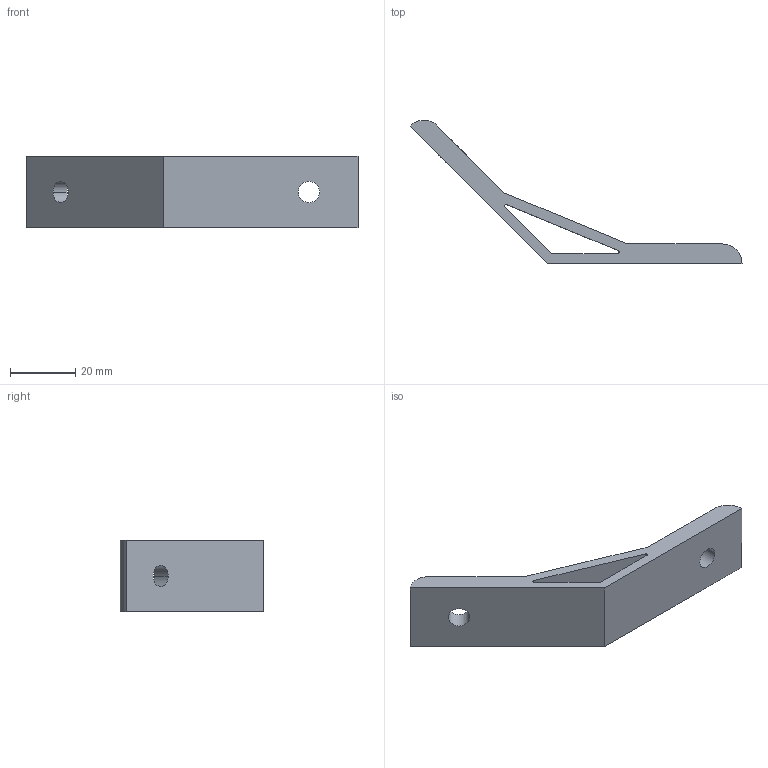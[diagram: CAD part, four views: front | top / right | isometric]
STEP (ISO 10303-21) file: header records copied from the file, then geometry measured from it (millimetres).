
FILE_DESCRIPTION (( 'STEP AP203' ), '1' );
FILE_NAME ('67－CE-30-135度.STEP', '2015-07-09T08:14:35', ( '' ), ( '' ), 'SwSTEP 2.0', 'SolidWorks 2013', '' );
FILE_SCHEMA (( 'CONFIG_CONTROL_DESIGN' ));
Length unit declared in the file: millimetre
Products named in the file (1): 67ㄜCE-30-135僅
Bounding box: 101.57 x 43.81 x 22 mm (x, y, z)
Volume: 14457.6 mm3; surface area: 8423.9 mm2
Topology: 1 solids, 1 shells, 19 faces, 51 edges, 34 vertices
Faces by surface type: plane 10, cylinder 9
Entity records: 692 total; most frequent: DIRECTION 109, CARTESIAN_POINT 105, ORIENTED_EDGE 102, EDGE_CURVE 51, AXIS2_PLACEMENT_3D 38, VERTEX_POINT 34, LINE 33, VECTOR 33
